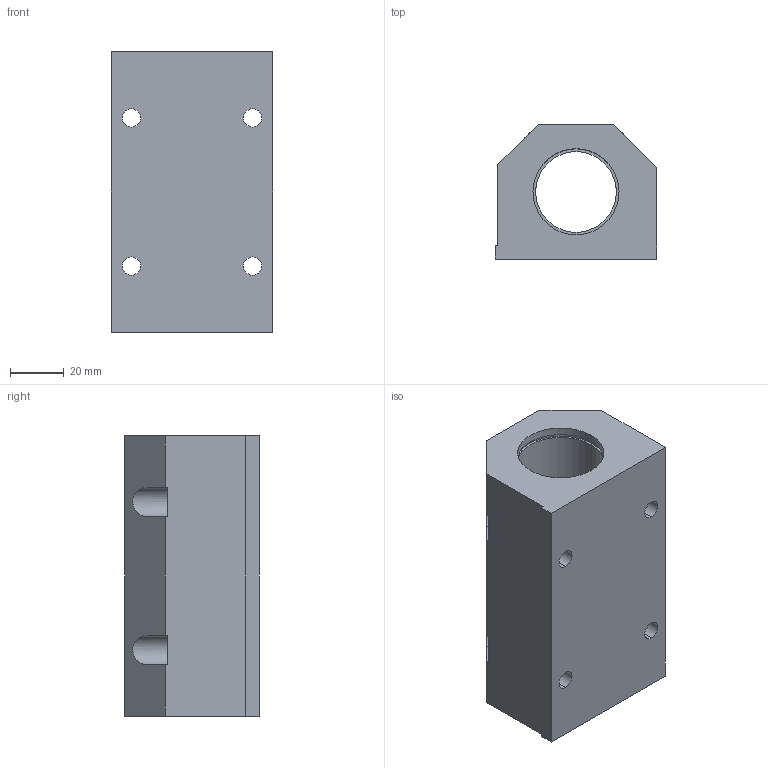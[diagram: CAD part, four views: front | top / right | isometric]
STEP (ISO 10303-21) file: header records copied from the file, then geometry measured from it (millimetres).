
FILE_DESCRIPTION (( 'STEP AP214' ), '1' );
FILE_NAME ('KTG85-I-20.step', '2020-03-04T13:30:55', ( '' ), ( '' ), 'SwSTEP 2.0', 'SolidWorks 2019', '' );
FILE_SCHEMA (( 'AUTOMOTIVE_DESIGN' ));
Length unit declared in the file: millimetre
Products named in the file (1): KTG85-I-20
Bounding box: 60 x 50 x 104 mm (x, y, z)
Volume: 190304.2 mm3; surface area: 39479.6 mm2
Topology: 1 solids, 1 shells, 60 faces, 148 edges, 96 vertices
Faces by surface type: cylinder 30, plane 28, cone 2
Entity records: 2002 total; most frequent: CARTESIAN_POINT 373, DIRECTION 318, ORIENTED_EDGE 296, EDGE_CURVE 148, AXIS2_PLACEMENT_3D 115, VERTEX_POINT 96, VECTOR 88, LINE 88
